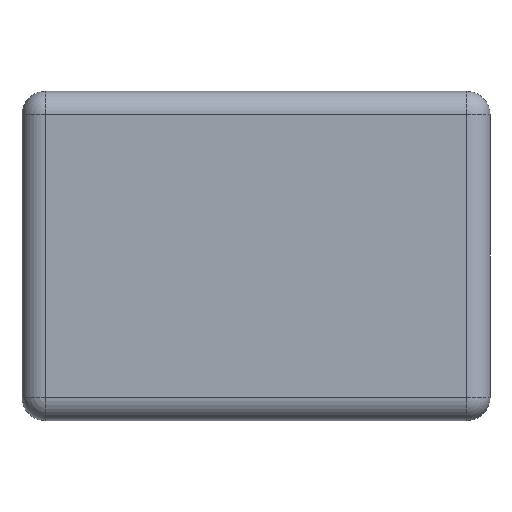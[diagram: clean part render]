
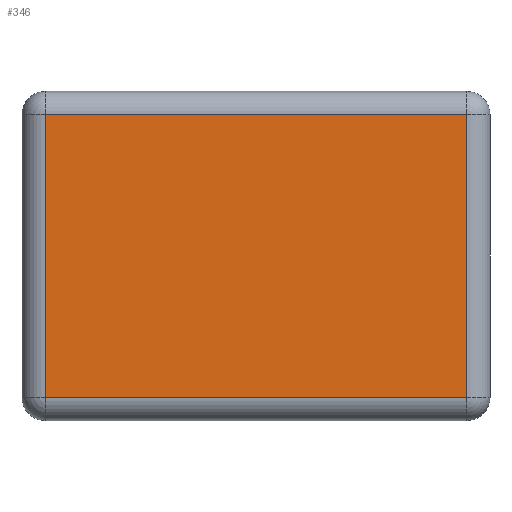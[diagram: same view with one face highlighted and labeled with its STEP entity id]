
A CAD part, front view. The second image highlights one B-rep face of the part: STEP entity #346.
In plain terms, the highlighted planar face has unit normal (0, -1, 0).
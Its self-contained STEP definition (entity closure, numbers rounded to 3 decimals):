
#16 = DIRECTION ( 'NONE',  ( 0., 0., 1. ) ) ;
#21 = VERTEX_POINT ( 'NONE', #2272 ) ;
#346 = ADVANCED_FACE ( 'Cara2', ( #554 ), #4669, .T. ) ;
#554 = FACE_OUTER_BOUND ( 'NONE', #5027, .T. ) ;
#748 = DIRECTION ( 'NONE',  ( 0., 0., -1. ) ) ;
#1185 = CARTESIAN_POINT ( 'NONE',  ( 45.45, 0., 30.5 ) ) ;
#1405 = AXIS2_PLACEMENT_3D ( 'NONE', #4460, #4376, #4345 ) ;
#1407 = LINE ( 'NONE', #3926, #2716 ) ;
#2011 = VERTEX_POINT ( 'NONE', #3881 ) ;
#2239 = LINE ( 'NONE', #4617, #5078 ) ;
#2272 = CARTESIAN_POINT ( 'NONE',  ( -45.45, 0., 30.5 ) ) ;
#2716 = VECTOR ( 'NONE', #748, 1000. ) ;
#3283 = CARTESIAN_POINT ( 'NONE',  ( -45.45, 0., -30.5 ) ) ;
#3676 = CARTESIAN_POINT ( 'NONE',  ( 45.45, 0., -30.5 ) ) ;
#3881 = CARTESIAN_POINT ( 'NONE',  ( 45.45, 0., 30.5 ) ) ;
#3926 = CARTESIAN_POINT ( 'NONE',  ( -45.45, 0., -30.5 ) ) ;
#4345 = DIRECTION ( 'NONE',  ( 0., 0., -1. ) ) ;
#4376 = DIRECTION ( 'NONE',  ( 0., -1., 0. ) ) ;
#4460 = CARTESIAN_POINT ( 'NONE',  ( -45.45, 0., 30.5 ) ) ;
#4474 = ORIENTED_EDGE ( 'NONE', *, *, #5697, .T. ) ;
#4617 = CARTESIAN_POINT ( 'NONE',  ( 45.45, 0., -30.5 ) ) ;
#4663 = DIRECTION ( 'NONE',  ( 1., 0., 0. ) ) ;
#4669 = PLANE ( 'NONE',  #1405 ) ;
#4675 = ORIENTED_EDGE ( 'NONE', *, *, #5731, .T. ) ;
#4744 = ORIENTED_EDGE ( 'NONE', *, *, #5813, .T. ) ;
#4749 = ORIENTED_EDGE ( 'NONE', *, *, #5861, .T. ) ;
#4858 = DIRECTION ( 'NONE',  ( -1., 0., 0. ) ) ;
#5027 = EDGE_LOOP ( 'NONE', ( #4474, #4675, #4744, #4749 ) ) ;
#5037 = VERTEX_POINT ( 'NONE', #3283 ) ;
#5078 = VECTOR ( 'NONE', #4663, 1000. ) ;
#5358 = VECTOR ( 'NONE', #4858, 1000. ) ;
#5434 = LINE ( 'NONE', #5888, #5358 ) ;
#5521 = LINE ( 'NONE', #1185, #5737 ) ;
#5639 = VERTEX_POINT ( 'NONE', #3676 ) ;
#5697 = EDGE_CURVE ( 'NONE', #21, #5037, #1407, .T. ) ;
#5731 = EDGE_CURVE ( 'NONE', #5037, #5639, #2239, .T. ) ;
#5737 = VECTOR ( 'NONE', #16, 1000. ) ;
#5813 = EDGE_CURVE ( 'NONE', #5639, #2011, #5521, .T. ) ;
#5861 = EDGE_CURVE ( 'NONE', #2011, #21, #5434, .T. ) ;
#5888 = CARTESIAN_POINT ( 'NONE',  ( -45.45, 0., 30.5 ) ) ;
